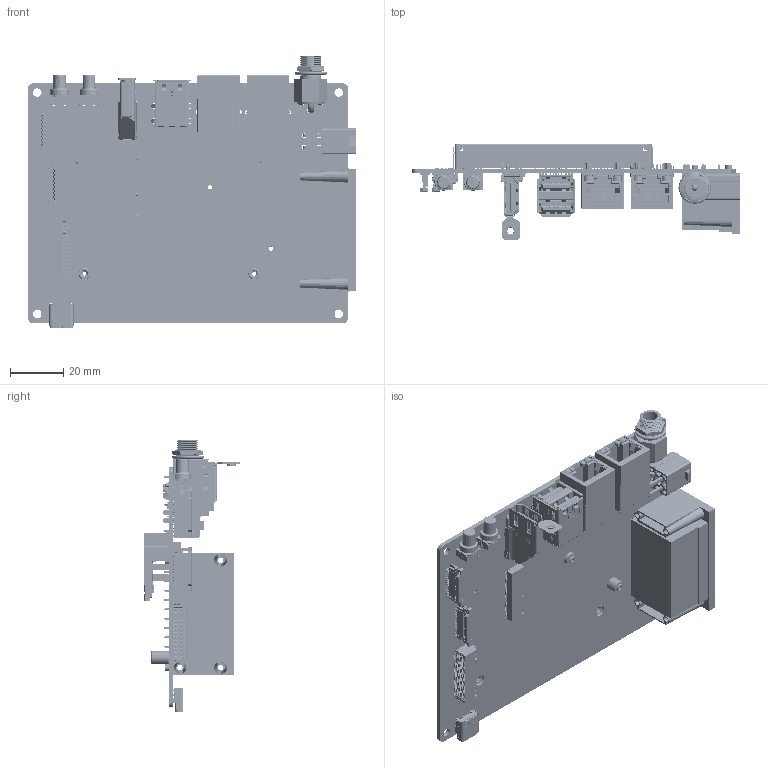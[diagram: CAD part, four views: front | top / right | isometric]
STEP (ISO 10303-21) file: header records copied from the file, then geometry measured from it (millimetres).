
FILE_DESCRIPTION((''),'2;1');
FILE_NAME('ASM_PCB_D115W_ASM','2026-06-11T18:02:18',('A002430'),(''),'CREO PARAMETRIC BY PTC INC, 2016390','CREO PARAMETRIC BY PTC INC, 2016390','');
FILE_SCHEMA(('CONFIG_CONTROL_DESIGN'));
Products named in the file (25): PCB_D115W; 061ADCD-0BBK; 061ACU3B-BBD; 061AACNHMBAX; 0402LS67AAF6_F7; 066AFPWD-ASJ; ASAA826-EASB0-XH_1; 104AAAAAAACS; ASSY-NANO-MODULE_1_ASM; ASSY-NVIDIA-MODULE_ASM; M2-PAD-AE; STAND-OFF-H2-1_45-104A-ACG; ME-AE-062A51750AMJ; ASSY-M2-AE-062A51750AMJ_ASM; 062AME252ANC; 061AMJ45-BCP; 061A57988BBH; 062A51757ANL; 104AAAAAAADF_STANDOFF_M2_H3-9; 062A51757ANL_2280_LIMIT_AREA; 062A51757ANL_2280_ASSY_ASM; 066A50554AVF; LL080VL-XX-B00_ASM; LL080VL-XX-B_3D_ASM; ASM_PCB_D115W_ASM
Assembly tree (30 placements, depth 4):
  ASM_PCB_D115W_ASM
    PCB_D115W
    061ADCD-0BBK
    061ACU3B-BBD
    061AACNHMBAX
    0402LS67AAF6_F7  x2
    066AFPWD-ASJ
    ASSY-NVIDIA-MODULE_ASM
      ASSY-NANO-MODULE_1_ASM
        ASAA826-EASB0-XH_1
        104AAAAAAACS  x2
    ASSY-M2-AE-062A51750AMJ_ASM
      M2-PAD-AE
      STAND-OFF-H2-1_45-104A-ACG
      ME-AE-062A51750AMJ
    062AME252ANC
    061AMJ45-BCP  x2
    061A57988BBH
    062A51757ANL_2280_ASSY_ASM
      062A51757ANL
      104AAAAAAADF_STANDOFF_M2_H3-9
      062A51757ANL_2280_LIMIT_AREA
    066A50554AVF  x2
    LL080VL-XX-B_3D_ASM  x3
      LL080VL-XX-B00_ASM
Bounding box: 123 x 35.75 x 101.9 mm (x, y, z)
Volume: 47460.3 mm3; surface area: 72413.5 mm2
Topology: 27 solids, 44 shells, 25489 faces, 78465 edges, 51815 vertices
Faces by surface type: plane 19395, cylinder 5563, bspline 205, cone 157, torus 68, sphere 58, extrusion 43
Entity records: 783780 total; most frequent: CARTESIAN_POINT 165256, ORIENTED_EDGE 136284, DIRECTION 120970, EDGE_CURVE 68165, VECTOR 55502, LINE 55459, VERTEX_POINT 45066, AXIS2_PLACEMENT_3D 32734
